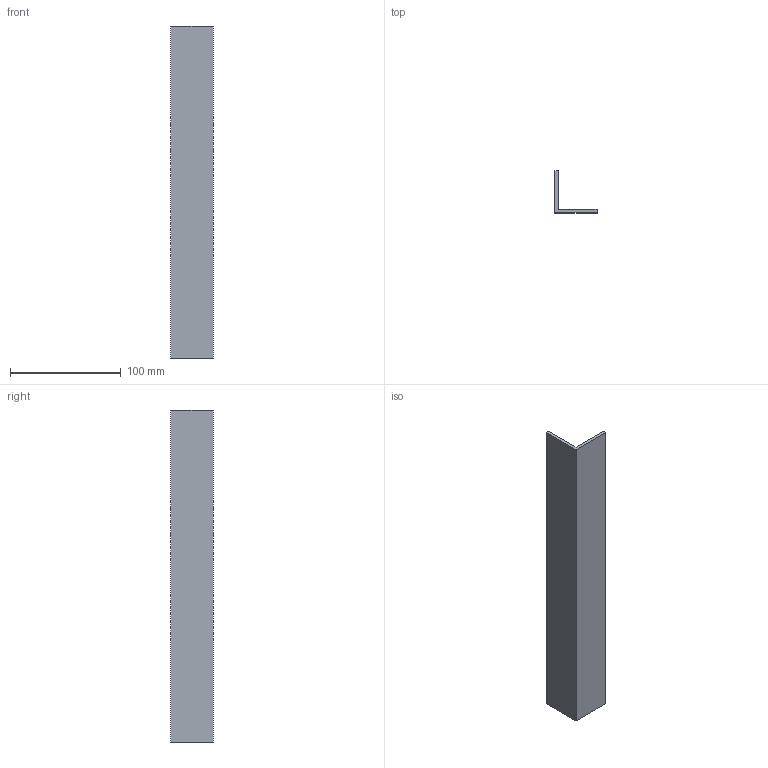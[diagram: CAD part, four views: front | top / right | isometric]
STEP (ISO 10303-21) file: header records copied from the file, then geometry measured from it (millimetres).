
FILE_DESCRIPTION (( 'STEP AP203' ), '1' );
FILE_NAME ('46-3-38-38褒臏.STEP', '2015-07-07T03:59:24', ( '' ), ( '' ), 'SwSTEP 2.0', 'SolidWorks 2013', '' );
FILE_SCHEMA (( 'CONFIG_CONTROL_DESIGN' ));
Length unit declared in the file: millimetre
Products named in the file (1): 46-3-38-38褒臏
Bounding box: 38 x 38 x 300 mm (x, y, z)
Volume: 65700 mm3; surface area: 46038 mm2
Topology: 1 solids, 1 shells, 8 faces, 18 edges, 12 vertices
Faces by surface type: plane 8
Entity records: 299 total; most frequent: CARTESIAN_POINT 39, DIRECTION 36, ORIENTED_EDGE 36, VECTOR 18, EDGE_CURVE 18, LINE 18, VERTEX_POINT 12, AXIS2_PLACEMENT_3D 9
